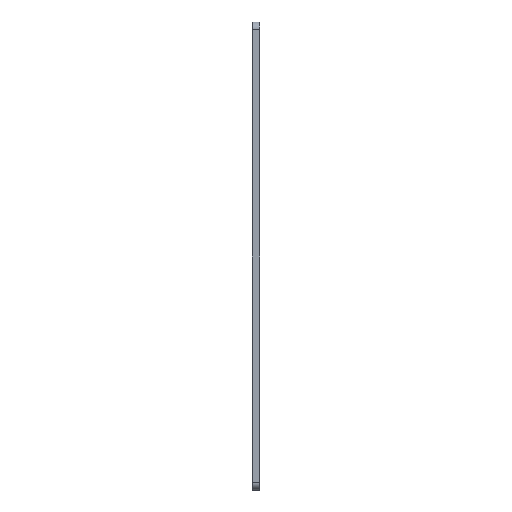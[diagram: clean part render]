
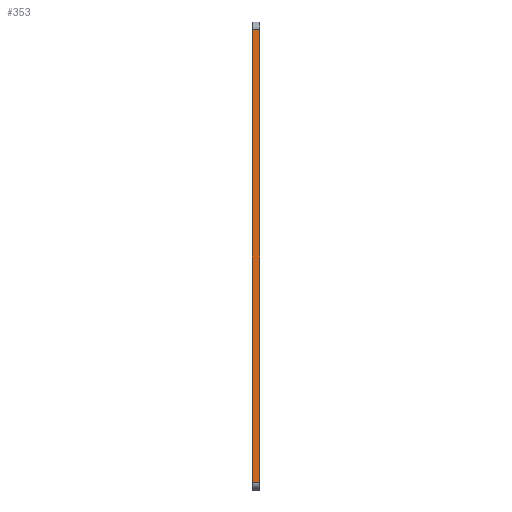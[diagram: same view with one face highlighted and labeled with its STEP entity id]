
A CAD part, left-side view. The second image highlights one B-rep face of the part: STEP entity #353.
In plain terms, the highlighted planar face has unit normal (-1, 0, 0).
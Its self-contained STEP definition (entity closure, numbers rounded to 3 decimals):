
#7 = VERTEX_POINT ( 'NONE', #706 ) ;
#24 = CARTESIAN_POINT ( 'NONE',  ( -43., 0., 135. ) ) ;
#51 = EDGE_CURVE ( 'NONE', #503, #589, #1002, .T. ) ;
#60 = VECTOR ( 'NONE', #532, 1000. ) ;
#91 = LINE ( 'NONE', #1256, #60 ) ;
#104 = DIRECTION ( 'NONE',  ( 0., -1., 0. ) ) ;
#110 = LINE ( 'NONE', #439, #876 ) ;
#146 = VECTOR ( 'NONE', #104, 1000. ) ;
#176 = EDGE_CURVE ( 'NONE', #503, #7, #1257, .T. ) ;
#217 = ORIENTED_EDGE ( 'NONE', *, *, #51, .T. ) ;
#266 = EDGE_CURVE ( 'NONE', #1093, #7, #91, .T. ) ;
#317 = ORIENTED_EDGE ( 'NONE', *, *, #176, .F. ) ;
#339 = FACE_OUTER_BOUND ( 'NONE', #400, .T. ) ;
#353 = ADVANCED_FACE ( 'NONE', ( #339 ), #404, .T. ) ;
#371 = ORIENTED_EDGE ( 'NONE', *, *, #266, .T. ) ;
#400 = EDGE_LOOP ( 'NONE', ( #1279, #371, #317, #217 ) ) ;
#404 = PLANE ( 'NONE',  #1010 ) ;
#439 = CARTESIAN_POINT ( 'NONE',  ( -43., 0., -43. ) ) ;
#503 = VERTEX_POINT ( 'NONE', #776 ) ;
#504 = DIRECTION ( 'NONE',  ( -1., 0., 0. ) ) ;
#532 = DIRECTION ( 'NONE',  ( 0., 1., 0. ) ) ;
#589 = VERTEX_POINT ( 'NONE', #1073 ) ;
#706 = CARTESIAN_POINT ( 'NONE',  ( -43., 3., 135. ) ) ;
#744 = DIRECTION ( 'NONE',  ( 0., 0., 1. ) ) ;
#776 = CARTESIAN_POINT ( 'NONE',  ( -43., 3., -40. ) ) ;
#876 = VECTOR ( 'NONE', #744, 1000. ) ;
#900 = EDGE_CURVE ( 'NONE', #589, #1093, #110, .T. ) ;
#913 = CARTESIAN_POINT ( 'NONE',  ( -43., 0., -43. ) ) ;
#991 = VECTOR ( 'NONE', #1300, 1000. ) ;
#995 = CARTESIAN_POINT ( 'NONE',  ( -43., 3., -43. ) ) ;
#1002 = LINE ( 'NONE', #1034, #146 ) ;
#1010 = AXIS2_PLACEMENT_3D ( 'NONE', #913, #504, #1228 ) ;
#1034 = CARTESIAN_POINT ( 'NONE',  ( -43., 0., -40. ) ) ;
#1073 = CARTESIAN_POINT ( 'NONE',  ( -43., 0., -40. ) ) ;
#1093 = VERTEX_POINT ( 'NONE', #24 ) ;
#1228 = DIRECTION ( 'NONE',  ( 0., 0., 1. ) ) ;
#1256 = CARTESIAN_POINT ( 'NONE',  ( -43., 0., 135. ) ) ;
#1257 = LINE ( 'NONE', #995, #991 ) ;
#1279 = ORIENTED_EDGE ( 'NONE', *, *, #900, .T. ) ;
#1300 = DIRECTION ( 'NONE',  ( 0., 0., 1. ) ) ;
